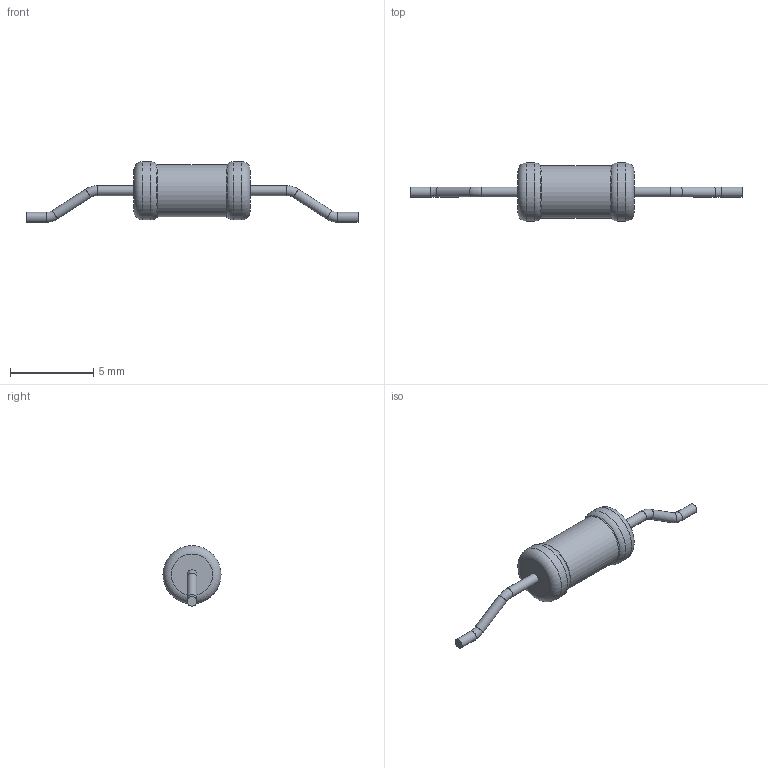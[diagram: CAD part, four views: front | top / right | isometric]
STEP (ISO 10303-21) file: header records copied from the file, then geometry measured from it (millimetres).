
FILE_DESCRIPTION(('STEP AP203'), '1');
FILE_NAME('Ñ2-29Ì-0,25(3)', '', ('UNSPECIFIED'), ('UNSPECIFIED'), 'ASCON STEP Converter 1.6', 'ASCON Math Kernel', '');
FILE_SCHEMA(('CONFIG_CONTROL_DESIGN'));
Length unit declared in the file: millimetre
Bounding box: 20 x 3.5 x 3.65 mm (x, y, z)
Volume: 62 mm3; surface area: 113.5 mm2
Topology: 1 solids, 1 shells, 23 faces, 41 edges, 22 vertices
Faces by surface type: torus 10, cylinder 9, plane 4
Full cylindrical faces by diameter (mm): 0.6 x6, 3.149 x1, 3.5 x2
Entity records: 682 total; most frequent: DIRECTION 92, CARTESIAN_POINT 68, AXIS2_PLACEMENT_3D 46, EDGE_LOOP 44, ORIENTED_EDGE 44, FACE_OUTER_BOUND 38, COLOUR_RGB 24, FILL_AREA_STYLE_COLOUR 24
